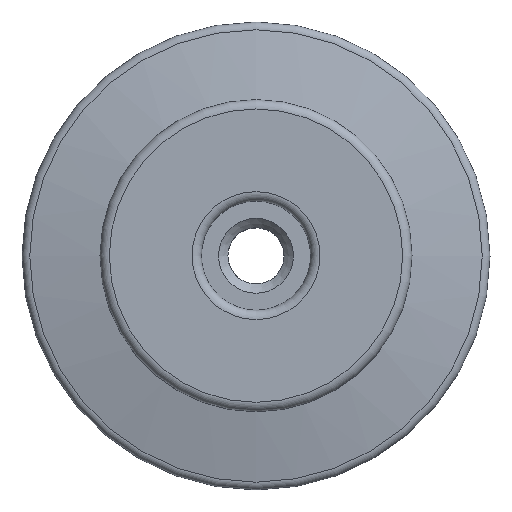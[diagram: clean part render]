
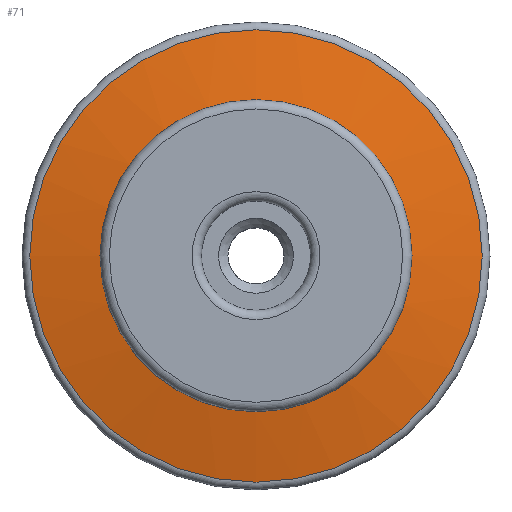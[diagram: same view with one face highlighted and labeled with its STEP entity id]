
A CAD part, top view. The second image highlights one B-rep face of the part: STEP entity #71.
In plain terms, the highlighted conical face has half-angle 78.632 degrees and reference radius 2.76 mm.
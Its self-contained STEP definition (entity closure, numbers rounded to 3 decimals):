
#71 = ADVANCED_FACE( '', ( #175, #176 ), #177, .T. );
#175 = FACE_OUTER_BOUND( '', #322, .T. );
#176 = FACE_BOUND( '', #323, .T. );
#177 = CONICAL_SURFACE( '', #324, 2.76, 1.372 );
#322 = EDGE_LOOP( '', ( #472 ) );
#323 = EDGE_LOOP( '', ( #473 ) );
#324 = AXIS2_PLACEMENT_3D( '', #474, #475, #476 );
#472 = ORIENTED_EDGE( '', *, *, #801, .F. );
#473 = ORIENTED_EDGE( '', *, *, #802, .T. );
#474 = CARTESIAN_POINT( '', ( 0., 0., -2.097 ) );
#475 = DIRECTION( '', ( 0., 0., -1. ) );
#476 = DIRECTION( '', ( -1., 0., 0. ) );
#801 = EDGE_CURVE( '', #937, #937, #938, .T. );
#802 = EDGE_CURVE( '', #939, #939, #940, .T. );
#937 = VERTEX_POINT( '', #1130 );
#938 = CIRCLE( '', #1131, 7.25 );
#939 = VERTEX_POINT( '', #1132 );
#940 = CIRCLE( '', #1133, 2.76 );
#1130 = CARTESIAN_POINT( '', ( -7.25, 0., -3. ) );
#1131 = AXIS2_PLACEMENT_3D( '', #1379, #1380, #1381 );
#1132 = CARTESIAN_POINT( '', ( -2.76, 0., -2.097 ) );
#1133 = AXIS2_PLACEMENT_3D( '', #1382, #1383, #1384 );
#1379 = CARTESIAN_POINT( '', ( 0., 0., -3. ) );
#1380 = DIRECTION( '', ( 0., 0., -1. ) );
#1381 = DIRECTION( '', ( -1., 0., 0. ) );
#1382 = CARTESIAN_POINT( '', ( 0., 0., -2.097 ) );
#1383 = DIRECTION( '', ( 0., 0., -1. ) );
#1384 = DIRECTION( '', ( -1., 0., 0. ) );
